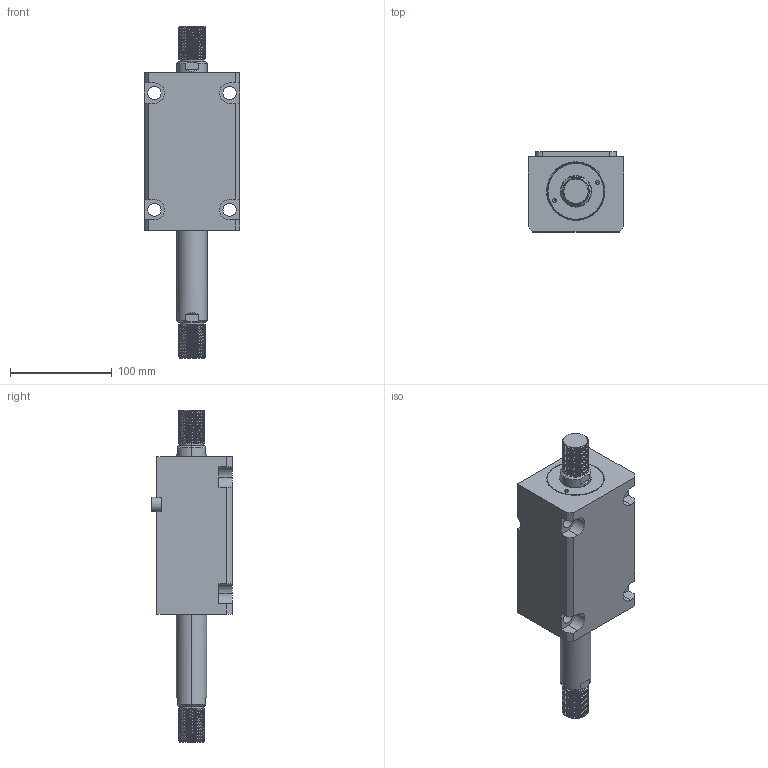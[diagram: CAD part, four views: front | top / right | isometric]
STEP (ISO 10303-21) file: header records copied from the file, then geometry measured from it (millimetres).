
FILE_DESCRIPTION (( 'STEP AP203' ), '1' );
FILE_NAME ('CHTB-LWM50-80W.STEP', '2018-05-22T06:50:51', ( '' ), ( '' ), 'SwSTEP 2.0', 'SolidWorks 2015', '' );
FILE_SCHEMA (( 'CONFIG_CONTROL_DESIGN' ));
Length unit declared in the file: millimetre
Products named in the file (4): CHTB-LWM50-80W; CHTM-SDMA50QG; 活塞杆LWM50-80W; 掛极LWM50-80W
Assembly tree (3 placements, depth 2):
  CHTB-LWM50-80W
    掛极LWM50-80W
    CHTM-SDMA50QG
    活塞杆LWM50-80W
Bounding box: 94 x 79 x 327 mm (x, y, z)
Volume: 1029808.2 mm3; surface area: 153913.6 mm2
Topology: 3 solids, 3 shells, 302 faces, 837 edges, 557 vertices
Faces by surface type: cylinder 188, plane 62, cone 18, bspline 18, torus 16
Entity records: 19248 total; most frequent: CARTESIAN_POINT 11864, ORIENTED_EDGE 1666, DIRECTION 1265, EDGE_CURVE 833, VERTEX_POINT 557, AXIS2_PLACEMENT_3D 483, EDGE_LOOP 338, ADVANCED_FACE 302
